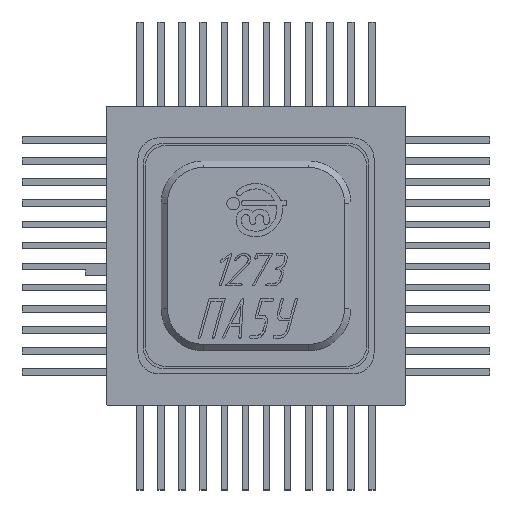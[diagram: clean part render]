
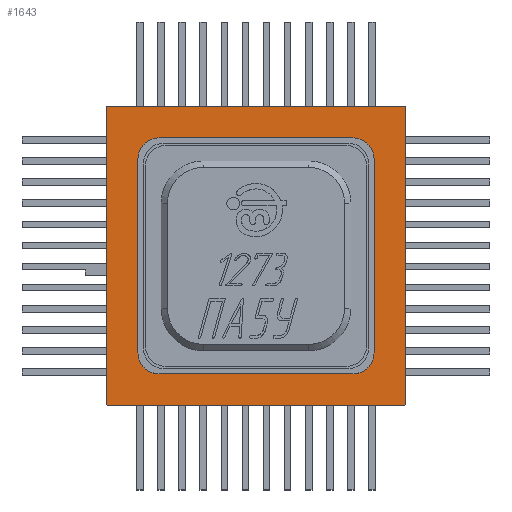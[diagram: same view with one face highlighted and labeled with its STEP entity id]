
A CAD part, top view. The second image highlights one B-rep face of the part: STEP entity #1643.
In plain terms, the highlighted planar face has unit normal (0, 0, 1).
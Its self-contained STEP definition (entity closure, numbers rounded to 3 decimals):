
#1643=ADVANCED_FACE('',(#14963,#14965),#14967,.T.);
#14963=FACE_BOUND('',#14964,.T.);
#14964=EDGE_LOOP('',(#25341,#25342,#25343,#25344,#25345,#25346,#25347,#25348));
#14965=FACE_BOUND('',#14966,.T.);
#14966=EDGE_LOOP('',(#25349,#25350,#25351,#25352,#25353,#25354,#25355,#25356));
#14967=PLANE('',#14968);
#14968=AXIS2_PLACEMENT_3D('',#14969,#14970,#14971);
#14969=CARTESIAN_POINT('',(0.,0.,2.7));
#14970=DIRECTION('',(0.,0.,1.));
#14971=DIRECTION('',(1.,0.,0.));
#25341=ORIENTED_EDGE('',*,*,#32371,.T.);
#25342=ORIENTED_EDGE('',*,*,#32372,.T.);
#25343=ORIENTED_EDGE('',*,*,#32373,.T.);
#25344=ORIENTED_EDGE('',*,*,#32374,.T.);
#25345=ORIENTED_EDGE('',*,*,#32375,.T.);
#25346=ORIENTED_EDGE('',*,*,#32376,.T.);
#25347=ORIENTED_EDGE('',*,*,#32377,.T.);
#25348=ORIENTED_EDGE('',*,*,#32378,.T.);
#25349=ORIENTED_EDGE('',*,*,#32379,.F.);
#25350=ORIENTED_EDGE('',*,*,#32380,.F.);
#25351=ORIENTED_EDGE('',*,*,#32381,.F.);
#25352=ORIENTED_EDGE('',*,*,#32382,.F.);
#25353=ORIENTED_EDGE('',*,*,#32383,.F.);
#25354=ORIENTED_EDGE('',*,*,#32384,.F.);
#25355=ORIENTED_EDGE('',*,*,#32385,.F.);
#25356=ORIENTED_EDGE('',*,*,#32386,.F.);
#32371=EDGE_CURVE('',#35811,#35812,#35813,.T.);
#32372=EDGE_CURVE('',#35812,#35814,#35815,.T.);
#32373=EDGE_CURVE('',#35814,#35816,#35817,.T.);
#32374=EDGE_CURVE('',#35816,#35818,#35819,.T.);
#32375=EDGE_CURVE('',#35818,#35820,#35821,.T.);
#32376=EDGE_CURVE('',#35820,#35822,#35823,.T.);
#32377=EDGE_CURVE('',#35822,#35824,#35825,.T.);
#32378=EDGE_CURVE('',#35824,#35811,#35826,.T.);
#32379=EDGE_CURVE('',#35827,#35828,#35829,.T.);
#32380=EDGE_CURVE('',#35830,#35827,#35831,.T.);
#32381=EDGE_CURVE('',#35832,#35830,#35833,.T.);
#32382=EDGE_CURVE('',#35834,#35832,#35835,.T.);
#32383=EDGE_CURVE('',#35836,#35834,#35837,.T.);
#32384=EDGE_CURVE('',#35838,#35836,#35839,.T.);
#32385=EDGE_CURVE('',#35840,#35838,#35841,.T.);
#32386=EDGE_CURVE('',#35828,#35840,#35842,.T.);
#35811=VERTEX_POINT('',#41545);
#35812=VERTEX_POINT('',#41546);
#35813=LINE('',#41547,#41548);
#35814=VERTEX_POINT('',#41550);
#35815=CIRCLE('',#41551,0.1);
#35816=VERTEX_POINT('',#41555);
#35817=LINE('',#41556,#41557);
#35818=VERTEX_POINT('',#41559);
#35819=CIRCLE('',#41560,0.1);
#35820=VERTEX_POINT('',#41564);
#35821=LINE('',#41565,#41566);
#35822=VERTEX_POINT('',#41568);
#35823=CIRCLE('',#41569,0.1);
#35824=VERTEX_POINT('',#41573);
#35825=LINE('',#41574,#41575);
#35826=CIRCLE('',#41577,0.1);
#35827=VERTEX_POINT('',#41581);
#35828=VERTEX_POINT('',#41582);
#35829=LINE('',#41583,#41584);
#35830=VERTEX_POINT('',#41586);
#35831=CIRCLE('',#41587,1.);
#35832=VERTEX_POINT('',#41591);
#35833=LINE('',#41592,#41593);
#35834=VERTEX_POINT('',#41595);
#35835=CIRCLE('',#41596,1.);
#35836=VERTEX_POINT('',#41600);
#35837=LINE('',#41601,#41602);
#35838=VERTEX_POINT('',#41604);
#35839=CIRCLE('',#41605,1.);
#35840=VERTEX_POINT('',#41609);
#35841=LINE('',#41610,#41611);
#35842=CIRCLE('',#41613,1.);
#41545=CARTESIAN_POINT('',(7.,7.1,2.7));
#41546=CARTESIAN_POINT('',(-7.,7.1,2.7));
#41547=CARTESIAN_POINT('',(7.,7.1,2.7));
#41548=VECTOR('',#41549,1.);
#41549=DIRECTION('',(-1.,0.,0.));
#41550=CARTESIAN_POINT('',(-7.1,7.,2.7));
#41551=AXIS2_PLACEMENT_3D('',#41552,#41553,#41554);
#41552=CARTESIAN_POINT('',(-7.,7.,2.7));
#41553=DIRECTION('',(0.,0.,1.));
#41554=DIRECTION('',(0.,1.,0.));
#41555=CARTESIAN_POINT('',(-7.1,-7.,2.7));
#41556=CARTESIAN_POINT('',(-7.1,7.,2.7));
#41557=VECTOR('',#41558,1.);
#41558=DIRECTION('',(0.,-1.,0.));
#41559=CARTESIAN_POINT('',(-7.,-7.1,2.7));
#41560=AXIS2_PLACEMENT_3D('',#41561,#41562,#41563);
#41561=CARTESIAN_POINT('',(-7.,-7.,2.7));
#41562=DIRECTION('',(0.,0.,1.));
#41563=DIRECTION('',(-1.,0.,0.));
#41564=CARTESIAN_POINT('',(7.,-7.1,2.7));
#41565=CARTESIAN_POINT('',(-7.,-7.1,2.7));
#41566=VECTOR('',#41567,1.);
#41567=DIRECTION('',(1.,0.,0.));
#41568=CARTESIAN_POINT('',(7.1,-7.,2.7));
#41569=AXIS2_PLACEMENT_3D('',#41570,#41571,#41572);
#41570=CARTESIAN_POINT('',(7.,-7.,2.7));
#41571=DIRECTION('',(0.,0.,1.));
#41572=DIRECTION('',(0.,-1.,0.));
#41573=CARTESIAN_POINT('',(7.1,7.,2.7));
#41574=CARTESIAN_POINT('',(7.1,-7.,2.7));
#41575=VECTOR('',#41576,1.);
#41576=DIRECTION('',(0.,1.,0.));
#41577=AXIS2_PLACEMENT_3D('',#41578,#41579,#41580);
#41578=CARTESIAN_POINT('',(7.,7.,2.7));
#41579=DIRECTION('',(0.,0.,1.));
#41580=DIRECTION('',(1.,0.,0.));
#41581=CARTESIAN_POINT('',(4.6,5.6,2.7));
#41582=CARTESIAN_POINT('',(-4.6,5.6,2.7));
#41583=CARTESIAN_POINT('',(4.6,5.6,2.7));
#41584=VECTOR('',#41585,1.);
#41585=DIRECTION('',(-1.,0.,0.));
#41586=CARTESIAN_POINT('',(5.6,4.6,2.7));
#41587=AXIS2_PLACEMENT_3D('',#41588,#41589,#41590);
#41588=CARTESIAN_POINT('',(4.6,4.6,2.7));
#41589=DIRECTION('',(0.,0.,1.));
#41590=DIRECTION('',(1.,0.,0.));
#41591=CARTESIAN_POINT('',(5.6,-4.6,2.7));
#41592=CARTESIAN_POINT('',(5.6,-4.6,2.7));
#41593=VECTOR('',#41594,1.);
#41594=DIRECTION('',(0.,1.,0.));
#41595=CARTESIAN_POINT('',(4.6,-5.6,2.7));
#41596=AXIS2_PLACEMENT_3D('',#41597,#41598,#41599);
#41597=CARTESIAN_POINT('',(4.6,-4.6,2.7));
#41598=DIRECTION('',(-0.,0.,1.));
#41599=DIRECTION('',(0.,-1.,0.));
#41600=CARTESIAN_POINT('',(-4.6,-5.6,2.7));
#41601=CARTESIAN_POINT('',(-4.6,-5.6,2.7));
#41602=VECTOR('',#41603,1.);
#41603=DIRECTION('',(1.,0.,0.));
#41604=CARTESIAN_POINT('',(-5.6,-4.6,2.7));
#41605=AXIS2_PLACEMENT_3D('',#41606,#41607,#41608);
#41606=CARTESIAN_POINT('',(-4.6,-4.6,2.7));
#41607=DIRECTION('',(0.,0.,1.));
#41608=DIRECTION('',(-1.,0.,0.));
#41609=CARTESIAN_POINT('',(-5.6,4.6,2.7));
#41610=CARTESIAN_POINT('',(-5.6,4.6,2.7));
#41611=VECTOR('',#41612,1.);
#41612=DIRECTION('',(0.,-1.,0.));
#41613=AXIS2_PLACEMENT_3D('',#41614,#41615,#41616);
#41614=CARTESIAN_POINT('',(-4.6,4.6,2.7));
#41615=DIRECTION('',(0.,-0.,1.));
#41616=DIRECTION('',(0.,1.,0.));
